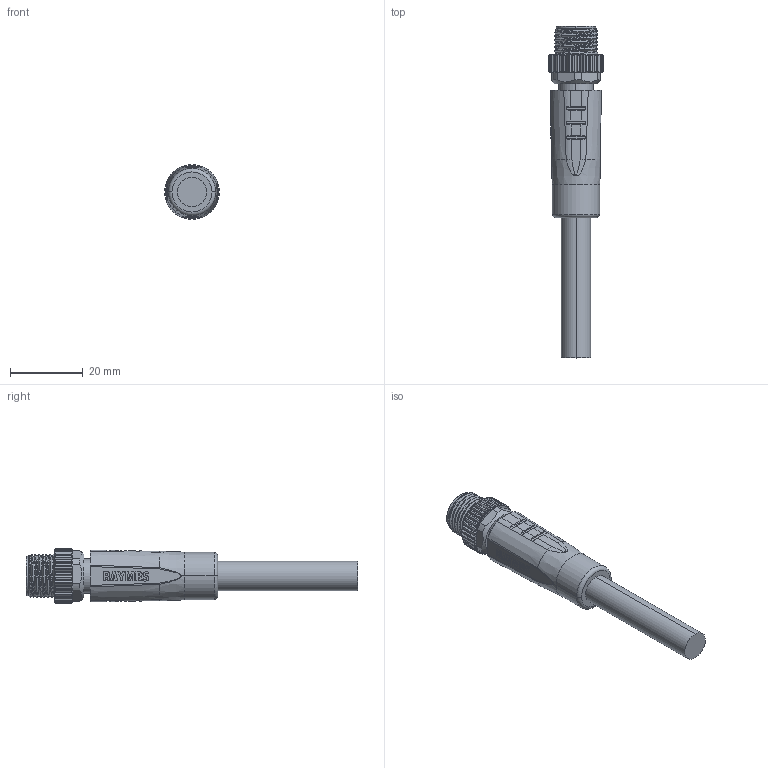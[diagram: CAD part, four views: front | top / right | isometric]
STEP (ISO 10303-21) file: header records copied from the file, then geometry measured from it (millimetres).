
FILE_DESCRIPTION((''),'2;1');
FILE_NAME('M12L-5MS-L','2025-05-20T',('lyj'),(''),'PRO/ENGINEER BY PARAMETRIC TECHNOLOGY CORPORATION, 2009360','PRO/ENGINEER BY PARAMETRIC TECHNOLOGY CORPORATION, 2009360','');
FILE_SCHEMA(('CONFIG_CONTROL_DESIGN'));
Length unit declared in the file: millimetre
Products named in the file (1): M12L-5MS-L
Bounding box: 14.98 x 91.1 x 14.98 mm (x, y, z)
Volume: 8866.2 mm3; surface area: 5440.2 mm2
Topology: 1 solids, 3 shells, 542 faces, 1553 edges, 1028 vertices
Faces by surface type: plane 200, cylinder 179, cone 93, extrusion 31, bspline 16, torus 12, sphere 11
Entity records: 21595 total; most frequent: CARTESIAN_POINT 7812, ORIENTED_EDGE 3084, DIRECTION 2610, EDGE_CURVE 1542, VERTEX_POINT 1028, AXIS2_PLACEMENT_3D 940, VECTOR 730, LINE 699
